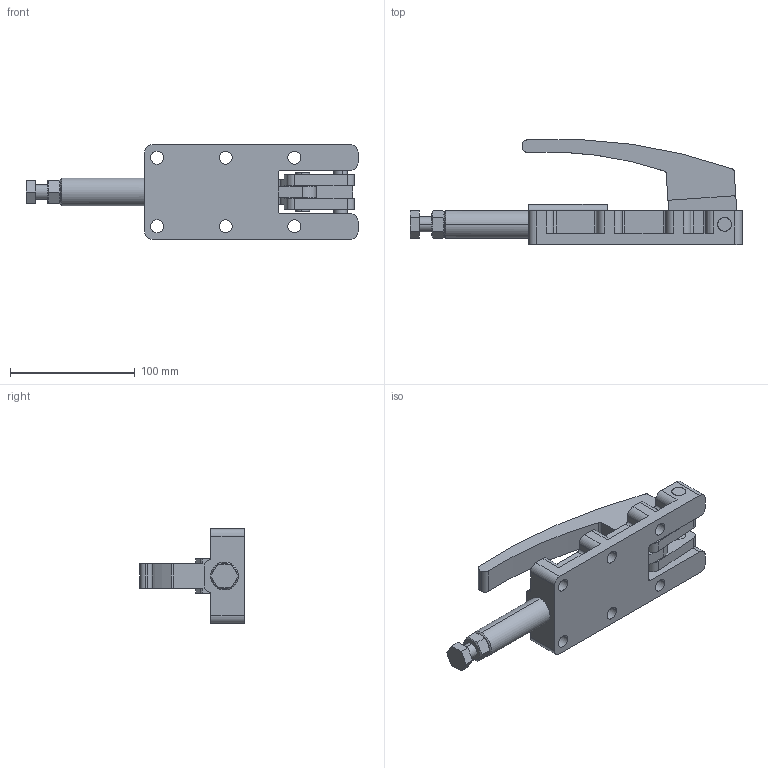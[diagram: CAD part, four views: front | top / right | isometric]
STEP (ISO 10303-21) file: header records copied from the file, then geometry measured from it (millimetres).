
FILE_DESCRIPTION (( 'STEP AP203' ), '1' );
FILE_NAME ('KF-605.STEP', '2011-05-19T13:46:56', ( 'Usuario' ), ( '' ), 'SwSTEP 2.0', 'SolidWorks 2011', '' );
FILE_SCHEMA (( 'CONFIG_CONTROL_DESIGN' ));
Length unit declared in the file: millimetre
Products named in the file (11): KF-605; PP-M12; 12.50014; 11.50004; 16.20064; 06.50043; 06.50042; 08.10047; 01.30003; 03.20045; 02.30016
Assembly tree (11 placements, depth 3):
  KF-605
    08.10047
    03.20045
    16.20064  x2
    02.30016
    06.50042
    06.50043
    01.30003
    PP-M12
      11.50004
      12.50014
Bounding box: 265.99 x 84.09 x 76 mm (x, y, z)
Volume: 358732.5 mm3; surface area: 102447.2 mm2
Topology: 10 solids, 10 shells, 214 faces, 566 edges, 372 vertices
Faces by surface type: cylinder 106, plane 89, cone 19
Entity records: 8010 total; most frequent: CARTESIAN_POINT 1450, DIRECTION 1179, ORIENTED_EDGE 1096, EDGE_CURVE 548, AXIS2_PLACEMENT_3D 439, VERTEX_POINT 362, VECTOR 301, LINE 301
